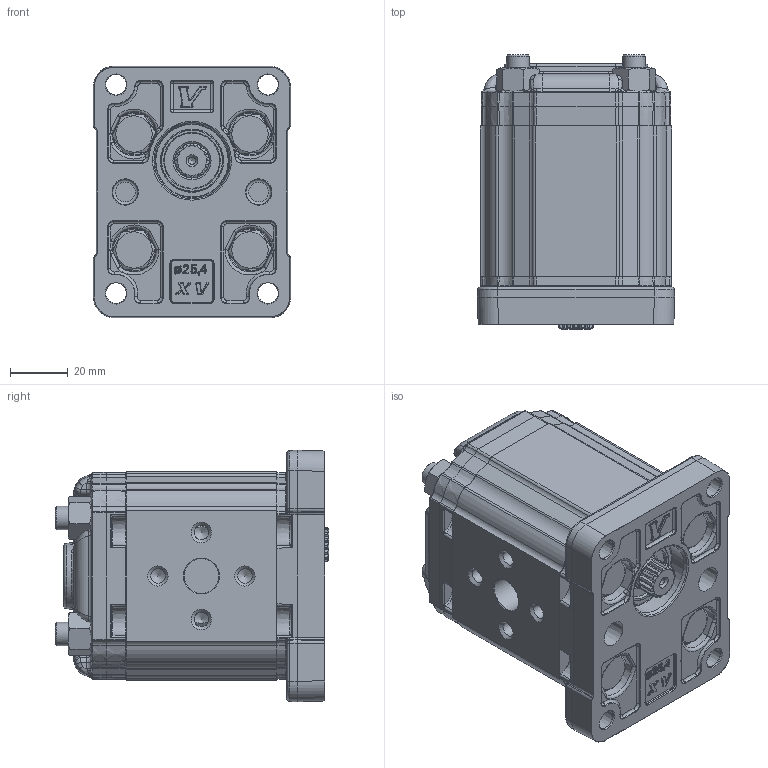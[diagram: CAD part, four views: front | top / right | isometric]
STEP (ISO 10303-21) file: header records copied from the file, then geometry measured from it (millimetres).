
FILE_DESCRIPTION(/* description */ ('Unknown'),/* implementation_level */ '2;1');
FILE_NAME(/* name */ 'X1F2571TIIA',/* time_stamp */ '2026-05-27T08:44:44+02:00',/* author */ ('Unknown'),/* organization */ ('Unknown'),/* preprocessor_version */ 'ST-DEVELOPER v16.7',/* originating_system */ 'Solid Edge',/* authorisation */ 'Unknown');
FILE_SCHEMA (('TECHNICAL_DATA_PACKAGING','AUTOMOTIVE_DESIGN {1 0 10303 214 3 1 1}'));
Products named in the file (5): X1F2571TIIA; X1F71; 1T; X1IIH52; XF101-A
Assembly tree (4 placements, depth 2):
  X1F2571TIIA
    X1F71
    1T
    X1IIH52
    XF101-A
Bounding box: 68 x 94.49 x 86.7 mm (x, y, z)
Volume: 354691.7 mm3; surface area: 71536.2 mm2
Topology: 4 solids, 4 shells, 2859 faces, 6847 edges, 4066 vertices
Faces by surface type: cylinder 939, bspline 682, plane 583, torus 308, cone 294, sphere 53
Full cylindrical faces by diameter (mm): 2.5 x1, 3.65 x2, 5 x8, 7.15 x4, 8 x12, 8.5 x6, 9 x2, 9.337 x4, 9.9 x1, 10.5 x2, 11.965 x1, 12 x6, 13.107 x1, 14.692 x1, 17.135 x1, 19 x1, 21.4 x1, 25.4 x1
Entity records: 139708 total; most frequent: CARTESIAN_POINT 58379, ORIENTED_EDGE 13060, DIRECTION 12504, EDGE_CURVE 6530, AXIS2_PLACEMENT_3D 5205, VERTEX_POINT 3968, FACE_BOUND 3182, EDGE_LOOP 3173
